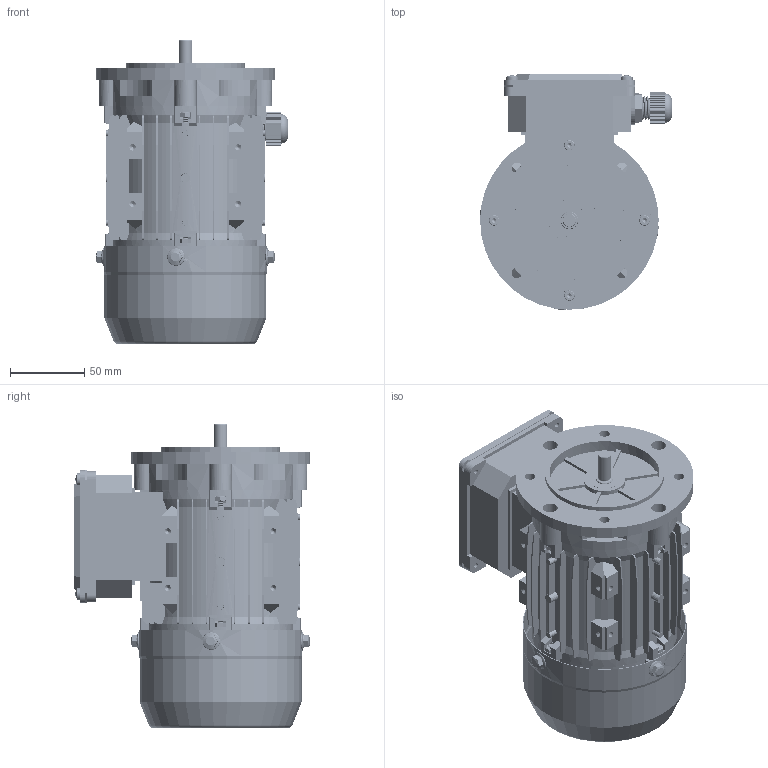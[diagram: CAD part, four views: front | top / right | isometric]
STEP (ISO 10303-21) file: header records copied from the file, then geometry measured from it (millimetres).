
FILE_DESCRIPTION (( 'STEP AP203' ), '1' );
FILE_NAME ('MS56 B5 3Dͼ.STEP', '2024-08-02T05:57:20', ( 'User' ), ( 'China' ), 'SwSTEP 2.0', 'SolidWorks 2018', '' );
FILE_SCHEMA (( 'CONFIG_CONTROL_DESIGN' ));
Length unit declared in the file: millimetre
Products named in the file (21): 蹟杶簸M16X1.5; circlips for shaft--type a large gb_GB_CONNECTING_PIECE_RING_RRA 11; cross recessed pan head screws gb_GB_CROSS_SCREWS_TYPE1 M4X6-6  H type-S; MS56瑞欶; MS56諉盄碟裔; hexagon socket head cap screws gb_GB_FASTENER_SCREWS_HSHCS M4X16-S; 蚐猾12X22X3; hex nuts, style 1-grades ab gb_GB_FASTENER_NUT_SNAB1 M4-S; MS56儂褲; hexagon socket head cap screws gb_GB_FASTENER_SCREWS_HSHCS M4X20-S; spring lock washers--normal type gb_GB_FASTENER_WASHER_SW 4; MS56B3綴裔; MS56B5ヶ裔; hex flange bolts-heavy grade b gb_GB_FASTENER_BOLT_HFBB M5X10-S; deep groove ball bearings gb_Rolling bearings 6201 GB 276-94; 黑芛M16X1.5; MS56諉盄碟菁釱; MS56蛌粣; MS56 B5  3Dͼ; 蹟杶郋M16X1.5; AO56瑞珔
Assembly tree (46 placements, depth 2):
  MS56 B5  3Dͼ
    MS56儂褲
    MS56B3綴裔
    deep groove ball bearings gb_Rolling bearings 6201 GB 276-94  x2
    MS56蛌粣
    AO56瑞珔
    circlips for shaft--type a large gb_GB_CONNECTING_PIECE_RING_RRA 11
    MS56瑞欶
    hexagon socket head cap screws gb_GB_FASTENER_SCREWS_HSHCS M4X16-S  x4
    hex nuts, style 1-grades ab gb_GB_FASTENER_NUT_SNAB1 M4-S  x7
    spring lock washers--normal type gb_GB_FASTENER_WASHER_SW 4  x4
    hex flange bolts-heavy grade b gb_GB_FASTENER_BOLT_HFBB M5X10-S  x4
    MS56諉盄碟菁釱
    蹟杶郋M16X1.5
    蹟杶簸M16X1.5
    cross recessed pan head screws gb_GB_CROSS_SCREWS_TYPE1 M4X6-6  H type-S  x8
    MS56諉盄碟裔
    蚐猾12X22X3
    hexagon socket head cap screws gb_GB_FASTENER_SCREWS_HSHCS M4X20-S  x4
    MS56B5ヶ裔
    黑芛M16X1.5
Bounding box: 129.02 x 158.56 x 204.54 mm (x, y, z)
Volume: 386307.9 mm3; surface area: 342316.8 mm2
Topology: 48 solids, 48 shells, 6740 faces, 16162 edges, 9489 vertices
Faces by surface type: cone 2420, plane 2203, cylinder 1723, bspline 174, torus 156, sphere 64
Entity records: 129342 total; most frequent: CARTESIAN_POINT 36765, ORIENTED_EDGE 19092, DIRECTION 18210, EDGE_CURVE 9546, AXIS2_PLACEMENT_3D 6216, VERTEX_POINT 5969, VECTOR 5778, LINE 5778
